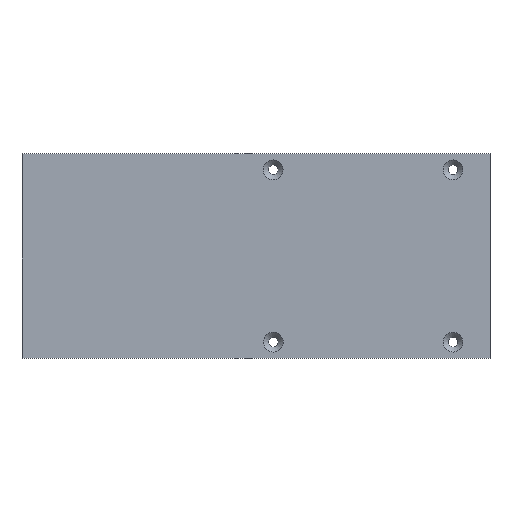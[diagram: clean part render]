
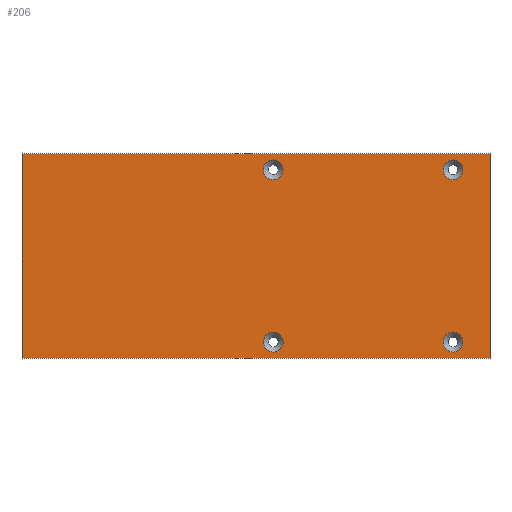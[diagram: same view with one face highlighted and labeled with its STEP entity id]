
A CAD part, top view. The second image highlights one B-rep face of the part: STEP entity #206.
In plain terms, the highlighted planar face has unit normal (0, 0, 1).
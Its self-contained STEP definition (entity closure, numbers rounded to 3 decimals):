
#42=CARTESIAN_POINT('',(190.,187.01,3.));
#43=VERTEX_POINT('',#42);
#50=CARTESIAN_POINT('',(0.,187.01,3.));
#51=VERTEX_POINT('',#50);
#52=CARTESIAN_POINT('',(190.,187.01,3.));
#53=DIRECTION('',(-1.,0.,0.));
#54=VECTOR('',#53,190.);
#55=LINE('',#52,#54);
#56=EDGE_CURVE('',#43,#51,#55,.T.);
#80=CARTESIAN_POINT('',(190.,270.01,3.));
#81=VERTEX_POINT('',#80);
#88=CARTESIAN_POINT('',(190.,270.01,3.));
#89=DIRECTION('',(0.,-1.,0.));
#90=VECTOR('',#89,83.);
#91=LINE('',#88,#90);
#92=EDGE_CURVE('',#81,#43,#91,.T.);
#111=CARTESIAN_POINT('',(-0.,270.01,3.));
#112=VERTEX_POINT('',#111);
#119=CARTESIAN_POINT('',(0.,270.01,3.));
#120=DIRECTION('',(1.,0.,-0.));
#121=VECTOR('',#120,190.);
#122=LINE('',#119,#121);
#123=EDGE_CURVE('',#112,#81,#122,.T.);
#141=CARTESIAN_POINT('',(-0.,187.01,3.));
#142=DIRECTION('',(-0.,1.,0.));
#143=VECTOR('',#142,83.);
#144=LINE('',#141,#143);
#145=EDGE_CURVE('',#51,#112,#144,.T.);
#151=CARTESIAN_POINT('',(0.,0.,3.));
#152=DIRECTION('',(0.,0.,1.));
#153=DIRECTION('',(1.,0.,0.));
#154=AXIS2_PLACEMENT_3D('',#151,#152,#153);
#155=PLANE('',#154);
#156=CARTESIAN_POINT('',(106.,263.5,3.));
#157=VERTEX_POINT('',#156);
#158=CARTESIAN_POINT('',(102.,263.5,3.));
#159=DIRECTION('',(-0.,-0.,-1.));
#160=DIRECTION('',(1.,0.,-0.));
#161=AXIS2_PLACEMENT_3D('',#158,#159,#160);
#162=CIRCLE('',#161,4.);
#163=EDGE_CURVE('',#157,#157,#162,.T.);
#164=ORIENTED_EDGE('',*,*,#163,.T.);
#165=EDGE_LOOP('',(#164));
#166=FACE_BOUND('',#165,.T.);
#167=CARTESIAN_POINT('',(106.028,193.51,3.));
#168=VERTEX_POINT('',#167);
#169=CARTESIAN_POINT('',(102.028,193.51,3.));
#170=DIRECTION('',(-0.,-0.,-1.));
#171=DIRECTION('',(1.,0.,-0.));
#172=AXIS2_PLACEMENT_3D('',#169,#170,#171);
#173=CIRCLE('',#172,4.);
#174=EDGE_CURVE('',#168,#168,#173,.T.);
#175=ORIENTED_EDGE('',*,*,#174,.T.);
#176=EDGE_LOOP('',(#175));
#177=FACE_BOUND('',#176,.T.);
#178=CARTESIAN_POINT('',(179.,193.5,3.));
#179=VERTEX_POINT('',#178);
#180=CARTESIAN_POINT('',(175.,193.5,3.));
#181=DIRECTION('',(-0.,-0.,-1.));
#182=DIRECTION('',(1.,0.,-0.));
#183=AXIS2_PLACEMENT_3D('',#180,#181,#182);
#184=CIRCLE('',#183,4.);
#185=EDGE_CURVE('',#179,#179,#184,.T.);
#186=ORIENTED_EDGE('',*,*,#185,.T.);
#187=EDGE_LOOP('',(#186));
#188=FACE_BOUND('',#187,.T.);
#189=CARTESIAN_POINT('',(179.,263.5,3.));
#190=VERTEX_POINT('',#189);
#191=CARTESIAN_POINT('',(175.,263.5,3.));
#192=DIRECTION('',(-0.,-0.,-1.));
#193=DIRECTION('',(1.,0.,-0.));
#194=AXIS2_PLACEMENT_3D('',#191,#192,#193);
#195=CIRCLE('',#194,4.);
#196=EDGE_CURVE('',#190,#190,#195,.T.);
#197=ORIENTED_EDGE('',*,*,#196,.T.);
#198=EDGE_LOOP('',(#197));
#199=FACE_BOUND('',#198,.T.);
#200=ORIENTED_EDGE('',*,*,#56,.F.);
#201=ORIENTED_EDGE('',*,*,#92,.F.);
#202=ORIENTED_EDGE('',*,*,#123,.F.);
#203=ORIENTED_EDGE('',*,*,#145,.F.);
#204=EDGE_LOOP('',(#200,#201,#202,#203));
#205=FACE_BOUND('',#204,.T.);
#206=ADVANCED_FACE('',(#166,#177,#188,#199,#205),#155,.T.);
